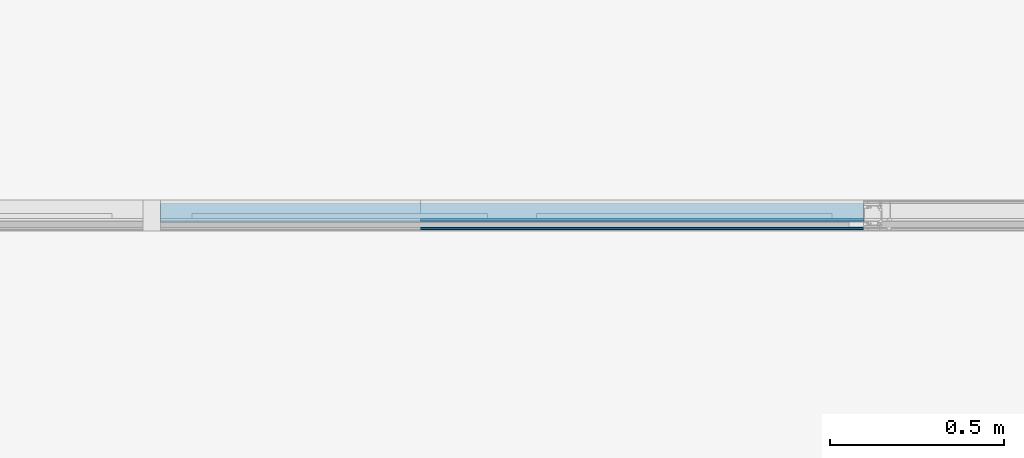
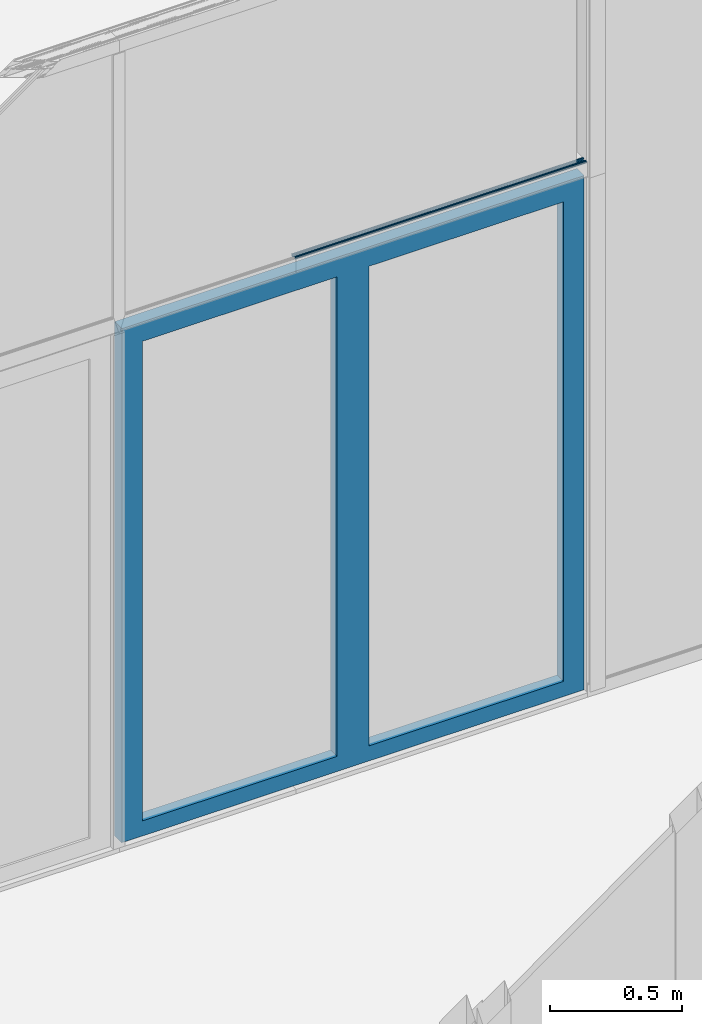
# One storey, part 25 of 69: 2 building element parts, 3 elements without a shape of their own.
"""IFC2X3 building model written with IfcOpenShell, lengths in millimetres."""

from ifc_helpers import new_model, entity, si_unit, converted_unit, derived_unit, money_unit, direction, frame, origin_with_axes, place, context, subcontext, project, spatial, faceted_brep, material, type_object, element, aggregate, save


model = new_model("IFC2X3")

# Units and contexts
model_context = context("Model", 3, precision=0.01, world=origin_with_axes(), true_north=direction((0.0, 1.0)))
body_context = subcontext(model_context, "Body", "Model", "MODEL_VIEW")
ifc_project = project(units=[si_unit("LENGTHUNIT", "METRE", prefix="MILLI"), si_unit("AREAUNIT", "SQUARE_METRE"), si_unit("VOLUMEUNIT", "CUBIC_METRE"), converted_unit("PLANEANGLEUNIT", "DEGREE", entity("IfcPlaneAngleMeasure", 0.0174532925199), si_unit("PLANEANGLEUNIT", "RADIAN"), dimensions=[0, 0, 0, 0, 0, 0, 0]), si_unit("SOLIDANGLEUNIT", "STERADIAN"), money_unit("EUR"), converted_unit("TIMEUNIT", "Year", entity("IfcTimeMeasure", 31556926.0), si_unit("TIMEUNIT", "SECOND"), dimensions=[0, 0, 1, 0, 0, 0, 0]), si_unit("MASSUNIT", "GRAM", prefix="KILO"), si_unit("THERMODYNAMICTEMPERATUREUNIT", "DEGREE_CELSIUS"), si_unit("LUMINOUSINTENSITYUNIT", "LUMEN"), si_unit("ENERGYUNIT", "JOULE", prefix="MEGA"), derived_unit("THERMALCONDUCTANCEUNIT", [(si_unit("POWERUNIT", "WATT"), 1), (si_unit("LENGTHUNIT", "METRE"), -1), (si_unit("THERMODYNAMICTEMPERATUREUNIT", "KELVIN"), -1)]), derived_unit("SPECIFICHEATCAPACITYUNIT", [(si_unit("ENERGYUNIT", "JOULE"), 1), (si_unit("MASSUNIT", "GRAM", prefix="KILO"), -1), (si_unit("THERMODYNAMICTEMPERATUREUNIT", "KELVIN"), -1)]), derived_unit("MASSDENSITYUNIT", [(si_unit("MASSUNIT", "GRAM", prefix="KILO"), 1), (si_unit("VOLUMEUNIT", "CUBIC_METRE"), -1)])], contexts=[model_context])

# Site, building, storey
site_placement = place(None, origin_with_axes())
site = spatial("IfcSite", under=ifc_project, at=site_placement, Name="Puškini 31, Narva", CompositionType="ELEMENT")
building_placement = place(site_placement, origin_with_axes())
building = spatial("IfcBuilding", under=site, at=building_placement, Name="Narva Riigigümnaasium", CompositionType="ELEMENT")
storey_placement = place(building_placement, origin_with_axes())
storey = spatial("IfcBuildingStorey", under=building, at=storey_placement, Name="1.korrus 0.00", CompositionType="ELEMENT", Elevation=0.0)

# Curtain wall, door, building element parts, member
curtain_wall_type = type_object("IfcCurtainWallType", Name="Curtain Wall Type", PredefinedType="NOTDEFINED")
curtain_wall_placement = place(storey_placement, frame((18229.9603698, 152620.000001, -0.397158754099), z_axis=(0.0, 0.0, 1.0), x_axis=(1.0, 0.0, 0.0)))
curtain_wall = element("IfcCurtainWall", 1, at=curtain_wall_placement, inside=storey, type_object=curtain_wall_type, Name="G-KLF-01-1")
door_style = type_object("IfcDoorStyle", Name="1235 x 2339 x 20", ConstructionType="NOTDEFINED", OperationType="NOTDEFINED", ParameterTakesPrecedence=False, Sizeable=False)
door_placement = place(curtain_wall_placement, frame((2049.95114668, 0.0, 1200.00001719), z_axis=(0.0, 0.0, 1.0), x_axis=(1.0, 0.0, 0.0)))
door = element("IfcDoor", 2, at=door_placement, type_object=door_style, Name="G-KLF-01-1-U2", ObjectType="DOOR")
ifc_material_1 = material(Name="ET-04_Alumiinium")
building_element_part_1_placement = place(door_placement, origin_with_axes())
building_element_part_1 = element("IfcBuildingElementPart", 3, at=building_element_part_1_placement, material=ifc_material_1, Name="ET-04_Alumiinium", context=body_context, shape_type="Brep", body=[
    faceted_brep([(-916.227871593, 35.0, -1180.00001691), (-916.227871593, 30.0, -1180.00001691), (-916.227871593, 30.0, 1200.00001719), (-916.227871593, 35.0, 1200.00001719), (-871.227871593, 35.0, -1180.00001691), (-871.227871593, 30.0, -1180.00001691), (-871.227871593, 30.0, 1155.00001719), (-871.227871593, 35.0, 1155.00001719)], [[[0, 1, 2, 3]], [[4, 5, 1, 0]], [[1, 5, 6, 2]], [[3, 2, 6, 7]], [[0, 3, 7, 4]], [[7, 6, 5, 4]]]),
    faceted_brep([(1108.77215742, 35.0, 1200.00001719), (1108.77215742, 30.0, 1200.00001719), (1063.77215742, 30.0, 1155.00001719), (1063.77215742, 35.0, 1155.00001719), (-916.227871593, 35.0, 1200.00001719), (-916.227871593, 30.0, 1200.00001719), (-871.227871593, 30.0, 1155.00001719), (-871.227871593, 35.0, 1155.00001719)], [[[0, 1, 2, 3]], [[4, 5, 1, 0]], [[1, 5, 6, 2]], [[3, 2, 6, 7]], [[0, 3, 7, 4]], [[7, 6, 5, 4]]]),
    faceted_brep([(1108.77215742, 35.0, -1180.00001691), (1108.77215742, 30.0, -1180.00001691), (1063.77215742, 30.0, -1180.00001691), (1063.77215742, 35.0, -1180.00001691), (1108.77215742, 35.0, 1200.00001719), (1108.77215742, 30.0, 1200.00001719), (1063.77215742, 30.0, 1155.00001719), (1063.77215742, 35.0, 1155.00001719)], [[[0, 1, 2, 3]], [[4, 5, 1, 0]], [[1, 5, 6, 2]], [[3, 2, 6, 7]], [[0, 3, 7, 4]], [[7, 6, 5, 4]]]),
    faceted_brep([(-916.227871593, 30.0, -1180.00001691), (-916.227871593, -20.0, -1180.00001691), (-916.227871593, -20.0, 1200.00001719), (-916.227871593, 30.0, 1200.00001719), (-896.227871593, 30.0, -1180.00001691), (-896.227871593, -20.0, -1180.00001691), (-896.227871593, -20.0, 1180.00001719), (-896.227871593, 30.0, 1180.00001719)], [[[0, 1, 2, 3]], [[4, 5, 1, 0]], [[1, 5, 6, 2]], [[3, 2, 6, 7]], [[0, 3, 7, 4]], [[7, 6, 5, 4]]]),
    faceted_brep([(1108.77215742, 30.0, 1200.00001719), (1108.77215742, -20.0, 1200.00001719), (1088.77215742, -20.0, 1180.00001719), (1088.77215742, 30.0, 1180.00001719), (-916.227871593, 30.0, 1200.00001719), (-916.227871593, -20.0, 1200.00001719), (-896.227871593, -20.0, 1180.00001719), (-896.227871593, 30.0, 1180.00001719)], [[[0, 1, 2, 3]], [[4, 5, 1, 0]], [[1, 5, 6, 2]], [[3, 2, 6, 7]], [[0, 3, 7, 4]], [[7, 6, 5, 4]]]),
    faceted_brep([(1108.77215742, 30.0, -1180.00001691), (1108.77215742, -20.0, -1180.00001691), (1088.77215742, -20.0, -1180.00001691), (1088.77215742, 30.0, -1180.00001691), (1108.77215742, 30.0, 1200.00001719), (1108.77215742, -20.0, 1200.00001719), (1088.77215742, -20.0, 1180.00001719), (1088.77215742, 30.0, 1180.00001719)], [[[0, 1, 2, 3]], [[4, 5, 1, 0]], [[1, 5, 6, 2]], [[3, 2, 6, 7]], [[0, 3, 7, 4]], [[7, 6, 5, 4]]]),
    faceted_brep([(-916.227871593, 10.0, 1200.00001719), (-916.227871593, -9.99999999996, 1200.00001719), (1108.77215742, -9.99999999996, 1200.00001719), (1108.77215742, 10.0, 1200.00001719), (-916.227871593, 10.0, 1158.81762622), (-916.227871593, -9.99999999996, 1158.81762622), (1067.58976645, -9.99999999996, 1158.81762622), (1067.58976645, 10.0, 1158.81762622)], [[[0, 1, 2, 3]], [[4, 5, 1, 0]], [[1, 5, 6, 2]], [[3, 2, 6, 7]], [[0, 3, 7, 4]], [[7, 6, 5, 4]]]),
    faceted_brep([(1108.77215742, 10.0, 1200.00001719), (1108.77215742, -9.99999999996, 1200.00001719), (1108.77215742, -9.99999999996, -1180.00001691), (1108.77215742, 10.0, -1180.00001691), (1067.58976645, 10.0, 1158.81762622), (1067.58976645, -9.99999999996, 1158.81762622), (1067.58976645, -9.99999999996, -1180.00001691), (1067.58976645, 10.0, -1180.00001691)], [[[0, 1, 2, 3]], [[4, 5, 1, 0]], [[1, 5, 6, 2]], [[3, 2, 6, 7]], [[0, 3, 7, 4]], [[7, 6, 5, 4]]]),
    faceted_brep([(1018.77215742, 30.0, -1110.00001691), (1018.77215742, -20.0, -1110.00001691), (1018.77215742, -20.0, 1110.00001719), (1018.77215742, 30.0, 1110.00001719), (1088.77215742, 30.0, -1180.00001691), (1088.77215742, -20.0, -1180.00001691), (1088.77215742, -20.0, 1180.00001719), (1088.77215742, 30.0, 1180.00001719)], [[[0, 1, 2, 3]], [[4, 5, 1, 0]], [[1, 5, 6, 2]], [[3, 2, 6, 7]], [[0, 3, 7, 4]], [[7, 6, 5, 4]]]),
    faceted_brep([(96.2721429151, 30.0, -1180.00001691), (96.2721429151, -20.0, -1180.00001691), (96.2721429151, -20.0, 1180.00001719), (96.2721429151, 30.0, 1180.00001719), (166.272142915, 30.0, -1110.00001691), (166.272142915, -20.0, -1110.00001691), (166.272142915, -20.0, 1110.00001719), (166.272142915, 30.0, 1110.00001719)], [[[0, 1, 2, 3]], [[4, 5, 1, 0]], [[1, 5, 6, 2]], [[3, 2, 6, 7]], [[0, 3, 7, 4]], [[7, 6, 5, 4]]]),
    faceted_brep([(96.2721429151, 30.0, -1180.00001691), (96.2721429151, -20.0, -1180.00001691), (166.272142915, -20.0, -1110.00001691), (166.272142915, 30.0, -1110.00001691), (1088.77215742, 30.0, -1180.00001691), (1088.77215742, -20.0, -1180.00001691), (1018.77215742, -20.0, -1110.00001691), (1018.77215742, 30.0, -1110.00001691)], [[[0, 1, 2, 3]], [[4, 5, 1, 0]], [[1, 5, 6, 2]], [[3, 2, 6, 7]], [[0, 3, 7, 4]], [[7, 6, 5, 4]]]),
    faceted_brep([(1088.77215742, 30.0, 1180.00001719), (1088.77215742, -20.0, 1180.00001719), (1018.77215742, -20.0, 1110.00001719), (1018.77215742, 30.0, 1110.00001719), (96.2721429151, 30.0, 1180.00001719), (96.2721429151, -20.0, 1180.00001719), (166.272142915, -20.0, 1110.00001719), (166.272142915, 30.0, 1110.00001719)], [[[0, 1, 2, 3]], [[4, 5, 1, 0]], [[1, 5, 6, 2]], [[3, 2, 6, 7]], [[0, 3, 7, 4]], [[7, 6, 5, 4]]]),
    faceted_brep([(26.2721429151, 30.0, -1110.00001691), (26.2721429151, -20.0, -1110.00001691), (26.2721429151, -20.0, 1110.00001719), (26.2721429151, 30.0, 1110.00001719), (96.2721429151, 30.0, -1180.00001691), (96.2721429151, -20.0, -1180.00001691), (96.2721429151, -20.0, 1180.00001719), (96.2721429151, 30.0, 1180.00001719)], [[[0, 1, 2, 3]], [[4, 5, 1, 0]], [[1, 5, 6, 2]], [[3, 2, 6, 7]], [[0, 3, 7, 4]], [[7, 6, 5, 4]]]),
    faceted_brep([(-896.227871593, 30.0, -1180.00001691), (-896.227871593, -20.0, -1180.00001691), (-896.227871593, -20.0, 1180.00001719), (-896.227871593, 30.0, 1180.00001719), (-826.227871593, 30.0, -1110.00001691), (-826.227871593, -20.0, -1110.00001691), (-826.227871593, -20.0, 1110.00001719), (-826.227871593, 30.0, 1110.00001719)], [[[0, 1, 2, 3]], [[4, 5, 1, 0]], [[1, 5, 6, 2]], [[3, 2, 6, 7]], [[0, 3, 7, 4]], [[7, 6, 5, 4]]]),
    faceted_brep([(-896.227871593, 30.0, -1180.00001691), (-896.227871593, -20.0, -1180.00001691), (-826.227871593, -20.0, -1110.00001691), (-826.227871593, 30.0, -1110.00001691), (96.2721429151, 30.0, -1180.00001691), (96.2721429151, -20.0, -1180.00001691), (26.2721429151, -20.0, -1110.00001691), (26.2721429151, 30.0, -1110.00001691)], [[[0, 1, 2, 3]], [[4, 5, 1, 0]], [[1, 5, 6, 2]], [[3, 2, 6, 7]], [[0, 3, 7, 4]], [[7, 6, 5, 4]]]),
    faceted_brep([(96.2721429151, 30.0, 1180.00001719), (96.2721429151, -20.0, 1180.00001719), (26.2721429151, -20.0, 1110.00001719), (26.2721429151, 30.0, 1110.00001719), (-896.227871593, 30.0, 1180.00001719), (-896.227871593, -20.0, 1180.00001719), (-826.227871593, -20.0, 1110.00001719), (-826.227871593, 30.0, 1110.00001719)], [[[0, 1, 2, 3]], [[4, 5, 1, 0]], [[1, 5, 6, 2]], [[3, 2, 6, 7]], [[0, 3, 7, 4]], [[7, 6, 5, 4]]]),
])
aggregate(door, [building_element_part_1])
member_type = type_object("IfcMemberType", Name="82 x 35", PredefinedType="MULLION")
member_placement = place(curtain_wall_placement, frame((3158.7233041, 0.0, 2400.00003439), z_axis=(-1.0, 0.0, 0.0), x_axis=(0.0, 0.0, 1.0)))
member = element("IfcMember", 4, at=member_placement, type_object=member_type, Name="G-SKLF-01-raam", ObjectType="MULLION")
aggregate(curtain_wall, [door, member])
ifc_material_2 = material(Name="Membraan - Veekindel")
building_element_part_2_placement = place(member_placement, origin_with_axes())
building_element_part_2 = element("IfcBuildingElementPart", 5, at=building_element_part_2_placement, material=ifc_material_2, Name="Membraan - Veekindel", context=body_context, shape_type="Brep", body=[
    faceted_brep([(74.9898926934, -16.6230552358, 0.0), (74.9898926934, -16.6230552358, 1276.31643658), (72.7204882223, -15.0100099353, 1276.31643658), (72.7204882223, -15.0100099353, 0.0), (77.1927259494, -16.806401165, 0.0), (77.1927259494, -16.806401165, 1276.31643658), (79.5038972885, -16.8013439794, 1276.31643658), (80.1029794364, -16.6395947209, 1276.31643658), (80.5411647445, -16.2002134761, 1276.31643658), (80.7012805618, -15.6006926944, 1276.31643658), (80.5405112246, -15.001346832, 1276.31643658), (78.7418652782, -10.0036443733, 1276.31643658), (78.4882789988, -8.54540440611, 1276.31643658), (78.4207620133, -8.40475732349, 1276.31643658), (78.2917480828, -8.3170330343, 1276.31643658), (78.1361285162, -8.30595622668, 1276.31643658), (76.7361285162, -8.57808865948, 1276.31643658), (76.601588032, -8.64188392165, 1276.31643658), (76.5142922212, -8.76250903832, 1276.31643658), (76.4957458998, -8.91024871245, 1276.31643658), (76.6099827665, -9.81277248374, 1276.31643658), (76.5838261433, -9.97813443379, 1276.31643658), (76.4731258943, -10.1037298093, 1276.31643658), (76.3123574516, -10.1504443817, 1276.31643658), (74.2580290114, -10.1504443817, 1276.31643658), (74.0859560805, -10.096189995, 1276.31643658), (73.9761212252, -9.95305042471, 1276.31643658), (73.5556584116, -8.79783833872, 1276.31643658), (73.4722984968, -8.67558063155, 1276.31643658), (73.3406152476, -8.60808734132, 1276.31643658), (73.192689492, -8.61180126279, 1276.31643658), (73.0645590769, -8.68581760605, 1276.31643658), (66.8142070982, -15.4145273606, 1276.31643658), (66.5501763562, -15.7474287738, 1276.31643658), (66.5093924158, -16.1703616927, 1276.31643658), (66.7049453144, -16.5475813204, 1276.31643658), (67.0740702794, -16.7580150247, 1276.31643658), (67.4982927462, -16.7341218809, 1276.31643658), (71.7536994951, -15.2121692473, 1276.31643658), (72.0437237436, -15.0307647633, 1276.31643658), (72.2558878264, -14.9074571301, 1276.31643658), (72.5011668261, -14.8999349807, 1276.31643658), (72.5011668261, -14.8999349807, 0.0), (72.2558878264, -14.9074571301, 0.0), (72.0437237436, -15.0307647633, 0.0), (71.7536994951, -15.2121692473, 0.0), (67.4982927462, -16.7341218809, 0.0), (67.0740702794, -16.7580150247, 0.0), (66.7049453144, -16.5475813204, 0.0), (66.5093924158, -16.1703616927, 0.0), (66.5501763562, -15.7474287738, 0.0), (66.8142070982, -15.4145273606, 0.0), (73.0645590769, -8.68581760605, 0.0), (73.192689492, -8.61180126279, 0.0), (73.3406152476, -8.60808734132, 0.0), (73.4722984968, -8.67558063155, 0.0), (73.5556584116, -8.79783833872, 0.0), (73.9761212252, -9.95305042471, 0.0), (74.0859560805, -10.096189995, 0.0), (74.2580290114, -10.1504443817, 0.0), (76.3123574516, -10.1504443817, 0.0), (76.4731258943, -10.1037298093, 0.0), (76.5838261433, -9.97813443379, 0.0), (76.6099827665, -9.81277248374, 0.0), (76.4957458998, -8.91024871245, 0.0), (76.5142922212, -8.76250903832, 0.0), (76.601588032, -8.64188392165, 0.0), (76.7361285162, -8.57808865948, 0.0), (78.1361285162, -8.30595622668, 0.0), (78.2917480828, -8.3170330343, 0.0), (78.4207620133, -8.40475732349, 0.0), (78.4882789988, -8.54540440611, 0.0), (78.7418652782, -10.0036443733, 0.0), (80.5405112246, -15.001346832, 0.0), (80.7012805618, -15.6006926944, 0.0), (80.5411647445, -16.2002134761, 0.0), (80.1029794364, -16.6395947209, 0.0), (79.5038972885, -16.8013439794, 0.0)], [[[0, 1, 2, 3]], [[4, 5, 1, 0]], [[1, 5, 6, 7, 8, 9, 10, 11, 12, 13, 14, 15, 16, 17, 18, 19, 20, 21, 22, 23, 24, 25, 26, 27, 28, 29, 30, 31, 32, 33, 34, 35, 36, 37, 38, 39, 40, 41, 2]], [[3, 2, 41, 42]], [[0, 3, 42, 43, 44, 45, 46, 47, 48, 49, 50, 51, 52, 53, 54, 55, 56, 57, 58, 59, 60, 61, 62, 63, 64, 65, 66, 67, 68, 69, 70, 71, 72, 73, 74, 75, 76, 77, 4]], [[77, 6, 5, 4]], [[76, 7, 6, 77]], [[75, 8, 7, 76]], [[74, 9, 8, 75]], [[73, 10, 9, 74]], [[72, 11, 10, 73]], [[71, 12, 11, 72]], [[70, 13, 12, 71]], [[69, 14, 13, 70]], [[68, 15, 14, 69]], [[67, 16, 15, 68]], [[66, 17, 16, 67]], [[65, 18, 17, 66]], [[64, 19, 18, 65]], [[63, 20, 19, 64]], [[62, 21, 20, 63]], [[61, 22, 21, 62]], [[60, 23, 22, 61]], [[59, 24, 23, 60]], [[58, 25, 24, 59]], [[57, 26, 25, 58]], [[56, 27, 26, 57]], [[55, 28, 27, 56]], [[54, 29, 28, 55]], [[53, 30, 29, 54]], [[52, 31, 30, 53]], [[51, 32, 31, 52]], [[50, 33, 32, 51]], [[49, 34, 33, 50]], [[48, 35, 34, 49]], [[47, 36, 35, 48]], [[46, 37, 36, 47]], [[45, 38, 37, 46]], [[44, 39, 38, 45]], [[43, 40, 39, 44]], [[42, 41, 40, 43]]]),
    faceted_brep([(72.8904310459, -42.4618935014, 0.0), (72.8904310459, -42.4618935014, 1276.31643658), (71.6876987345, -41.3119145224, 1276.31643658), (71.6876987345, -41.3119145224, 0.0), (73.0818844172, -42.5, 0.0), (73.0818844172, -42.5, 1276.31643658), (74.717932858, -42.5, 1276.31643658), (74.9093558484, -42.461906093, 1276.31643658), (75.0716106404, -42.353428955, 1276.31643658), (76.1122970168, -41.3120098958, 1276.31643658), (76.1942964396, -41.1583915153, 1276.31643658), (76.1771585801, -40.9851032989, 1276.31643658), (76.0666568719, -40.8505228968, 1276.31643658), (75.9000173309, -40.799988, 1276.31643658), (75.800021, -40.799988, 1276.31643658), (75.500021, -40.499988, 1276.31643658), (75.500021, -39.200012, 1276.31643658), (76.5000210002, -39.200012, 1276.31643658), (78.5000022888, -39.2000007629, 1276.31643658), (78.5000022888, -40.0000359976, 1276.31643658), (78.7000161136, -39.9464425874, 1276.31643658), (78.8464370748, -39.8000230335, 1276.31643658), (78.9000324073, -39.6000097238, 1276.31643658), (79.1693613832, -36.5266395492, 1276.31643658), (79.6755028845, -35.3629012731, 1276.31643658), (80.7800222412, -34.7379988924, 1276.31643658), (82.041102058, -34.4928127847, 1276.31643658), (82.2412066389, -34.3909158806, 1276.31643658), (82.3536959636, -34.1965683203, 1276.31643658), (82.3423779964, -33.9722990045, 1276.31643658), (82.2108941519, -33.7902637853, 1276.31643658), (69.647137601, -33.7902637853, 1276.31643658), (68.8997554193, -34.9006000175, 1276.31643658), (68.9000321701, -38.9000291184, 1276.31643658), (68.9402207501, -39.0500149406, 1276.31643658), (69.0500179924, -39.159812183, 1276.31643658), (69.2000038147, -39.2000007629, 1276.31643658), (71.30004, -39.2000007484, 1276.31643658), (72.30004, -39.200012, 1276.31643658), (72.30004, -40.499988, 1276.31643658), (72.2598476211, -40.649988, 1276.31643658), (72.15004, -40.7597956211, 1276.31643658), (72.00004, -40.799988, 1276.31643658), (71.900046, -40.799988, 1276.31643658), (71.7334350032, -40.8505059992, 1276.31643658), (71.6229356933, -40.9850466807, 1276.31643658), (71.6057623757, -41.1582990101, 1276.31643658), (71.6057623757, -41.1582990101, 0.0), (71.6229356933, -40.9850466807, 0.0), (71.7334350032, -40.8505059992, 0.0), (71.900046, -40.799988, 0.0), (72.00004, -40.799988, 0.0), (72.15004, -40.7597956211, 0.0), (72.2598476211, -40.649988, 0.0), (72.30004, -40.499988, 0.0), (72.30004, -39.200012, 0.0), (71.30004, -39.2000007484, 0.0), (69.2000038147, -39.2000007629, 0.0), (69.0500179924, -39.159812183, 0.0), (68.9402207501, -39.0500149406, 0.0), (68.9000321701, -38.9000291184, 0.0), (68.8997554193, -34.9006000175, 0.0), (69.647137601, -33.7902637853, 0.0), (82.2108941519, -33.7902637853, 0.0), (82.3423779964, -33.9722990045, 0.0), (82.3536959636, -34.1965683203, 0.0), (82.2412066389, -34.3909158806, 0.0), (82.041102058, -34.4928127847, 0.0), (80.7800222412, -34.7379988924, 0.0), (79.6755028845, -35.3629012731, 0.0), (79.1693613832, -36.5266395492, 0.0), (78.9000324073, -39.6000097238, 0.0), (78.8464370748, -39.8000230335, 0.0), (78.7000161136, -39.9464425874, 0.0), (78.5000022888, -40.0000359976, 0.0), (78.5000022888, -39.2000007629, 0.0), (76.5000210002, -39.200012, 0.0), (75.500021, -39.200012, 0.0), (75.500021, -40.499988, 0.0), (75.800021, -40.799988, 0.0), (75.9000173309, -40.799988, 0.0), (76.0666568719, -40.8505228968, 0.0), (76.1771585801, -40.9851032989, 0.0), (76.1942964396, -41.1583915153, 0.0), (76.1122970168, -41.3120098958, 0.0), (75.0716106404, -42.353428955, 0.0), (74.9093558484, -42.461906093, 0.0), (74.717932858, -42.5, 0.0)], [[[0, 1, 2, 3]], [[4, 5, 1, 0]], [[1, 5, 6, 7, 8, 9, 10, 11, 12, 13, 14, 15, 16, 17, 18, 19, 20, 21, 22, 23, 24, 25, 26, 27, 28, 29, 30, 31, 32, 33, 34, 35, 36, 37, 38, 39, 40, 41, 42, 43, 44, 45, 46, 2]], [[3, 2, 46, 47]], [[0, 3, 47, 48, 49, 50, 51, 52, 53, 54, 55, 56, 57, 58, 59, 60, 61, 62, 63, 64, 65, 66, 67, 68, 69, 70, 71, 72, 73, 74, 75, 76, 77, 78, 79, 80, 81, 82, 83, 84, 85, 86, 87, 4]], [[87, 6, 5, 4]], [[86, 7, 6, 87]], [[85, 8, 7, 86]], [[84, 9, 8, 85]], [[83, 10, 9, 84]], [[82, 11, 10, 83]], [[81, 12, 11, 82]], [[80, 13, 12, 81]], [[79, 14, 13, 80]], [[78, 15, 14, 79]], [[77, 16, 15, 78]], [[76, 17, 16, 77]], [[75, 18, 17, 76]], [[74, 19, 18, 75]], [[73, 20, 19, 74]], [[72, 21, 20, 73]], [[71, 22, 21, 72]], [[70, 23, 22, 71]], [[69, 24, 23, 70]], [[68, 25, 24, 69]], [[67, 26, 25, 68]], [[66, 27, 26, 67]], [[65, 28, 27, 66]], [[64, 29, 28, 65]], [[63, 30, 29, 64]], [[62, 31, 30, 63]], [[61, 32, 31, 62]], [[60, 33, 32, 61]], [[59, 34, 33, 60]], [[58, 35, 34, 59]], [[57, 36, 35, 58]], [[56, 37, 36, 57]], [[55, 38, 37, 56]], [[54, 39, 38, 55]], [[53, 40, 39, 54]], [[52, 41, 40, 53]], [[51, 42, 41, 52]], [[50, 43, 42, 51]], [[49, 44, 43, 50]], [[48, 45, 44, 49]], [[47, 46, 45, 48]]]),
])
aggregate(member, [building_element_part_2])

save(model, "model.ifc")
